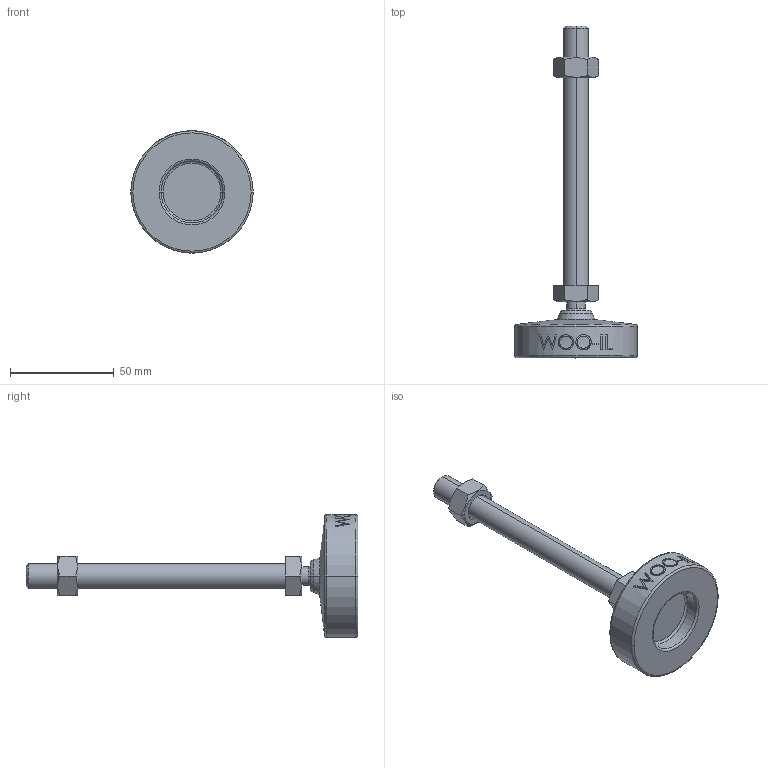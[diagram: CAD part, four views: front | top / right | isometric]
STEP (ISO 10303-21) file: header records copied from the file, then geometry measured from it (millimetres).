
FILE_DESCRIPTION (( 'STEP AP214' ), '1' );
FILE_NAME ('MFN59-M12-125.step', '2021-01-19T06:28:03', ( '' ), ( '' ), 'SwSTEP 2.0', 'SolidWorks 2019', '' );
FILE_SCHEMA (( 'AUTOMOTIVE_DESIGN' ));
Length unit declared in the file: millimetre
Products named in the file (2): MFN59-M12-125
Bounding box: 59 x 160 x 59 mm (x, y, z)
Volume: 61366.6 mm3; surface area: 16263.6 mm2
Topology: 2 solids, 2 shells, 109 faces, 253 edges, 160 vertices
Faces by surface type: plane 47, cone 18, cylinder 18, bspline 16, torus 8, sphere 2
Entity records: 4619 total; most frequent: CARTESIAN_POINT 2194, ORIENTED_EDGE 506, DIRECTION 461, EDGE_CURVE 253, AXIS2_PLACEMENT_3D 179, VERTEX_POINT 160, EDGE_LOOP 123, FACE_OUTER_BOUND 109
